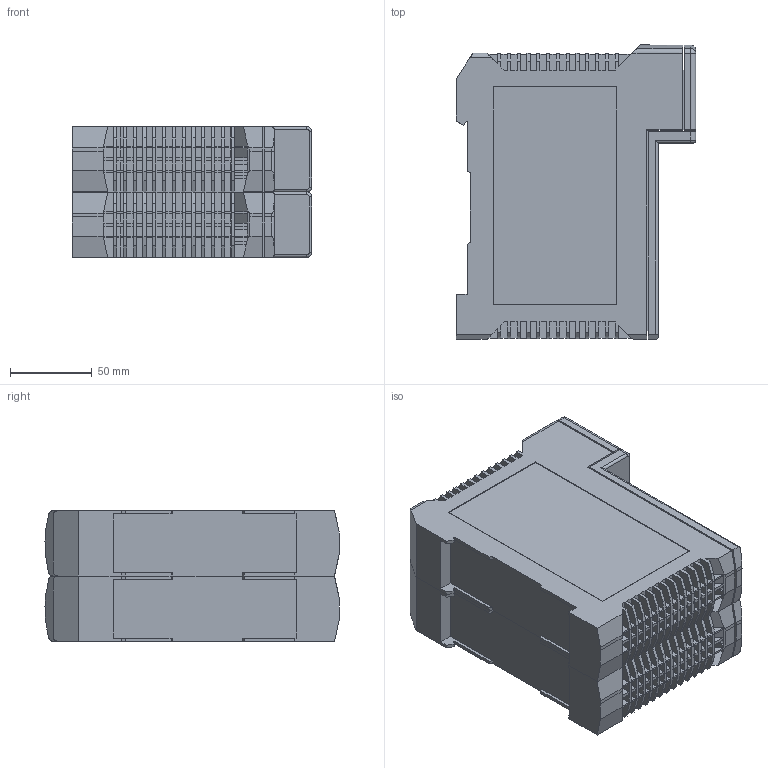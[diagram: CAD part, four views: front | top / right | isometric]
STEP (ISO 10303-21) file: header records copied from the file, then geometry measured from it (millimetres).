
FILE_DESCRIPTION(('STEP AP242'), '1');
FILE_NAME('R500_CU_00_061.m3d', '', ('UNSPECIFIED'), ('UNSPECIFIED'), 'C3D Converter', 'C3D Toolkit', '');
FILE_SCHEMA(('AP242_MANAGED_MODEL_BASED_3D_ENGINEERING_MIM_LF { 1 0 10303 442 1 1 4 }'));
Length unit declared in the file: millimetre
Assembly tree (2 placements, depth 2):
  (unnamed)
    (unnamed)
    (unnamed)
Bounding box: 146.5 x 179.99 x 80 mm (x, y, z)
Volume: 1639575 mm3; surface area: 205427.7 mm2
Topology: 2 solids, 2 shells, 1481 faces, 4278 edges, 2834 vertices
Faces by surface type: plane 1425, cylinder 46, torus 6, bspline 4
Full cylindrical faces by diameter (mm): 7.5 x3, 8.5 x3
Entity records: 47999 total; most frequent: CARTESIAN_POINT 8986, ORIENTED_EDGE 8520, DIRECTION 7244, EDGE_CURVE 4260, LINE 4160, VECTOR 4160, VERTEX_POINT 2834, AXIS2_PLACEMENT_3D 1542
